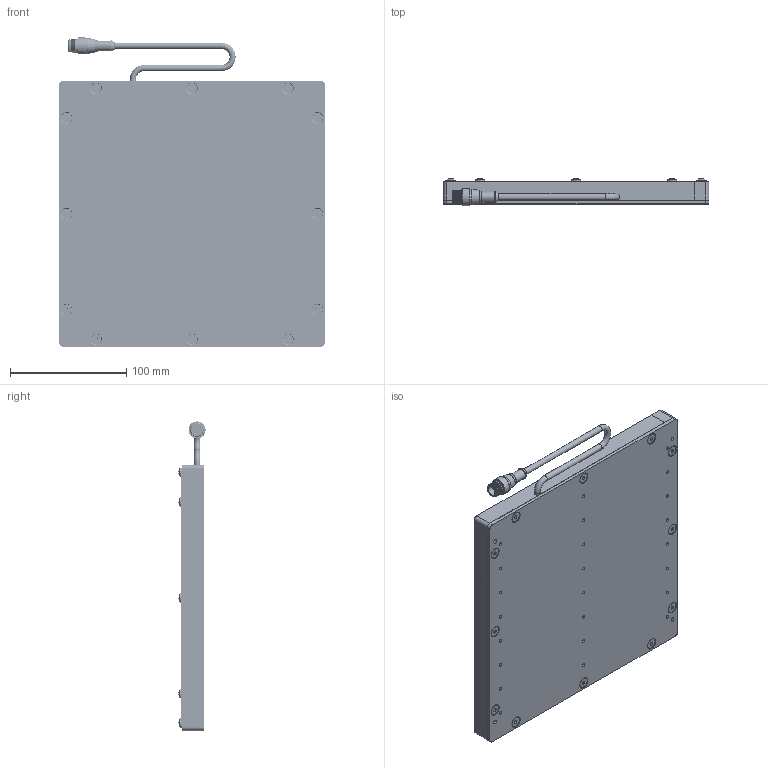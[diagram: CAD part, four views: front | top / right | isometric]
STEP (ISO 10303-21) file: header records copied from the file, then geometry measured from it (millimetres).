
FILE_DESCRIPTION (( 'STEP AP214' ), '1' );
FILE_NAME ('SBL88-XXX.STEP', '2026-04-17T19:27:20', ( '' ), ( '' ), 'SwSTEP 2.0', 'SolidWorks 2025', '' );
FILE_SCHEMA (( 'AUTOMOTIVE_DESIGN' ));
Length unit declared in the file: inch
Products named in the file (11): WD-SBLYYXX_8x8 with holes; M12 Connector 4,5 and 8 pin_RS4.5T; BackPlate BLYYXX_0808; SBL3 to 18in rail_08in rail; Hex Standoff .375 x 8-32; SC Pigtail Complete 18_5pin; 8-32 x .375 Nylon Screw_.375" 94611A192; SBL88-XXX; 8-32 x 0.375 FHCS (92210A192)_92210A192; MC Pigtail 24; SBL3 to 18in rail_08in No CG
Assembly tree (45 placements, depth 3):
  SBL88-XXX
    BackPlate BLYYXX_0808
    SBL3 to 18in rail_08in rail
    SBL3 to 18in rail_08in No CG  x3
    SC Pigtail Complete 18_5pin
      MC Pigtail 24
      M12 Connector 4,5 and 8 pin_RS4.5T
    WD-SBLYYXX_8x8 with holes
    Hex Standoff .375 x 8-32  x12
    8-32 x 0.375 FHCS (92210A192)_92210A192  x12
    8-32 x .375 Nylon Screw_.375" 94611A192  x12
Bounding box: 228.6 x 23.38 x 266.13 mm (x, y, z)
Volume: 466841.2 mm3; surface area: 285477.9 mm2
Topology: 44 solids, 44 shells, 1402 faces, 3496 edges, 2231 vertices
Faces by surface type: plane 525, bspline 324, cylinder 300, cone 211, torus 25, sphere 17
Full cylindrical faces by diameter (mm): 0.762 x5, 2.705 x24, 3.454 x16, 4.496 x36, 5.207 x3, 6.604 x8, 6.858 x12, 8.128 x12, 8.382 x1, 8.636 x1, 9.119 x12, 10.16 x1, 10.541 x1, 11.938 x1, 13.716 x2, 14.732 x1
Entity records: 16220 total; most frequent: CARTESIAN_POINT 5667, DIRECTION 1892, ORIENTED_EDGE 1582, EDGE_CURVE 791, AXIS2_PLACEMENT_3D 789, EDGE_LOOP 660, VERTEX_POINT 593, FACE_OUTER_BOUND 475
